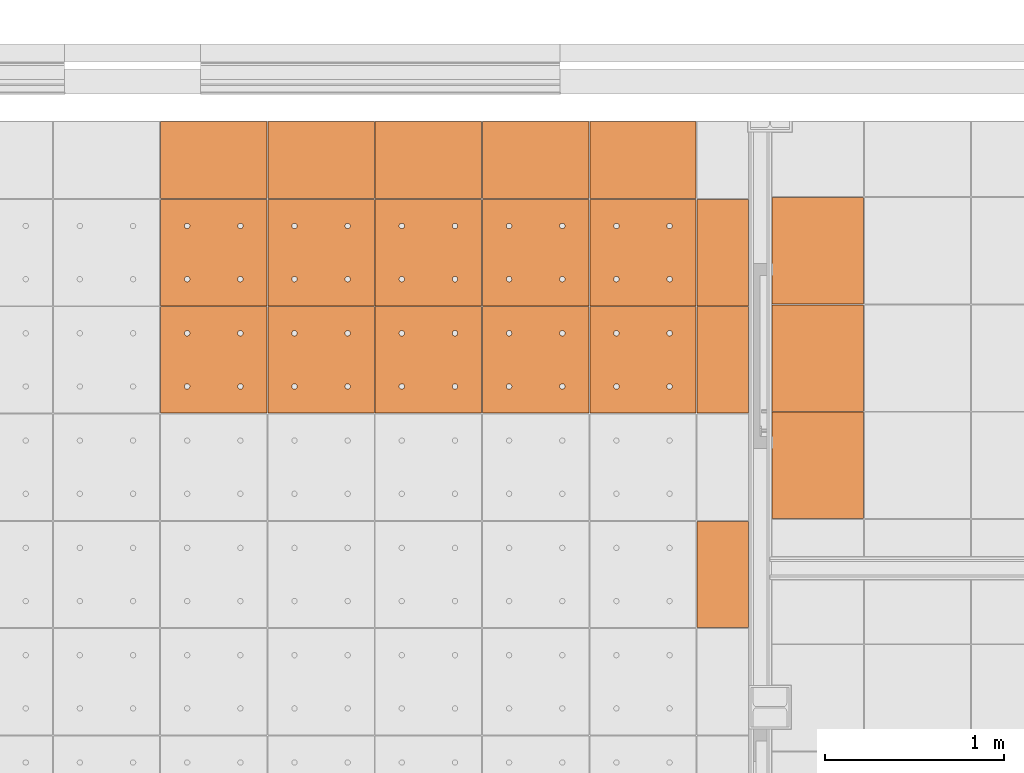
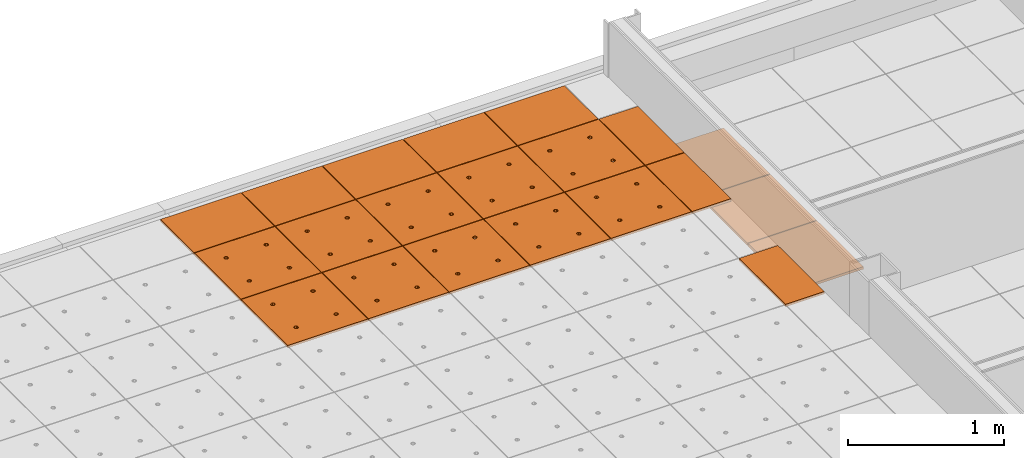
# One storey, part 298 of 338: 21 proxies, 2 elements without a shape of their own.
"""IFC2X3 building model written with IfcOpenShell, lengths in millimetres."""

from ifc_helpers import new_model, entity, si_unit, converted_unit, derived_unit, money_unit, direction, frame, origin_with_axes, place, context, subcontext, project, spatial, faceted_brep, source, transform, mapped, material, type_object, type_shapes, element, aggregate, save


model = new_model("IFC2X3")

# Units and contexts
model_context = context("Model", 3, precision=0.01, world=origin_with_axes(), true_north=direction((0.0, 1.0)))
plan_context = context("Plan", 3, precision=0.01, world=origin_with_axes(), true_north=direction((0.0, 1.0)))
body_context = subcontext(model_context, "Body", "Model", "MODEL_VIEW")
ifc_project = project(units=[si_unit("LENGTHUNIT", "METRE", prefix="MILLI"), si_unit("AREAUNIT", "SQUARE_METRE"), si_unit("VOLUMEUNIT", "CUBIC_METRE"), converted_unit("PLANEANGLEUNIT", "DEGREE", entity("IfcPlaneAngleMeasure", 0.0174532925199), si_unit("PLANEANGLEUNIT", "RADIAN"), dimensions=[0, 0, 0, 0, 0, 0, 0]), money_unit("EUR"), converted_unit("TIMEUNIT", "Year", entity("IfcTimeMeasure", 31556926.0), si_unit("TIMEUNIT", "SECOND"), dimensions=[0, 0, 1, 0, 0, 0, 0]), si_unit("MASSUNIT", "GRAM", prefix="KILO"), si_unit("THERMODYNAMICTEMPERATUREUNIT", "DEGREE_CELSIUS"), si_unit("LUMINOUSINTENSITYUNIT", "LUMEN"), si_unit("ENERGYUNIT", "JOULE", prefix="MEGA"), derived_unit("THERMALCONDUCTANCEUNIT", [(si_unit("POWERUNIT", "WATT"), 1), (si_unit("LENGTHUNIT", "METRE"), -1), (si_unit("THERMODYNAMICTEMPERATUREUNIT", "KELVIN"), -1)]), derived_unit("SPECIFICHEATCAPACITYUNIT", [(si_unit("ENERGYUNIT", "JOULE"), 1), (si_unit("MASSUNIT", "GRAM", prefix="KILO"), -1), (si_unit("THERMODYNAMICTEMPERATUREUNIT", "KELVIN"), -1)]), derived_unit("MASSDENSITYUNIT", [(si_unit("MASSUNIT", "GRAM", prefix="KILO"), 1), (si_unit("VOLUMEUNIT", "CUBIC_METRE"), -1)])], contexts=[model_context, plan_context])

# Site, building, storey
site_placement = place(None, origin_with_axes())
site = spatial("IfcSite", under=ifc_project, at=site_placement, Name="Fortuinstraat Woensdrecht", CompositionType="ELEMENT")
building_placement = place(site_placement, origin_with_axes())
building = spatial("IfcBuilding", under=site, at=building_placement, Name="IKC Fortuna", CompositionType="ELEMENT")
storey_placement = place(building_placement, origin_with_axes())
storey = spatial("IfcBuildingStorey", under=building, at=storey_placement, Name="00 begane grond", CompositionType="ELEMENT", Elevation=0.0)

# Covering, proxies
covering_type = type_object("IfcCoveringType", Name="Curtain Wall Type", PredefinedType="CEILING")
covering_1_placement = place(storey_placement, frame((15059.4416165, 34009.703821, 3210.0), z_axis=(0.0, 0.0, 1.0), x_axis=(1.0, 0.0, 0.0)))
covering_1 = element("IfcCovering", 1, at=covering_1_placement, inside=storey, type_object=covering_type, Name="45_Plafondafwerking_P01", PredefinedType="CEILING")
ifc_material = material(Name="Gipsplaat")
building_element_proxy_type_1 = type_object("IfcBuildingElementProxyType", Name="Distinct Panel 600 x 600 x 20", PredefinedType="NOTDEFINED")
shared_shape_1 = source(origin_with_axes(), body_context, "Body", "Brep", [
    faceted_brep([(2.49999999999, 2.49999999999, -10.0), (300.0, 2.49999999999, -10.0), (300.0, 2.49999999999, 10.0), (2.49999999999, 2.49999999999, 10.0), (2.49999999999, 300.0, -10.0), (2.49999999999, 597.5, -10.0), (300.0, 597.5, -10.0), (597.5, 597.5, -10.0), (597.5, 300.0, -10.0), (597.5, 2.49999999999, -10.0), (166.25, 450.06232995, -10.0), (165.79423259, 452.64711538, -10.0), (164.896546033, 455.11348892, -10.0), (163.58421608, 457.38651108, -10.0), (161.897117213, 459.39711721, -10.0), (159.886511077, 461.08421608, -10.0), (157.613488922, 462.39654603, -10.0), (155.147115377, 463.29423259, -10.0), (152.562329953, 463.75, -10.0), (149.937670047, 463.75, -10.0), (147.352884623, 463.29423259, -10.0), (144.886511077, 462.39654603, -10.0), (142.613488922, 461.08421608, -10.0), (140.602882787, 459.39711721, -10.0), (138.91578392, 457.38651108, -10.0), (137.603453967, 455.11348892, -10.0), (136.705767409, 452.64711538, -10.0), (136.25, 450.06232995, -10.0), (136.25, 448.75, -10.0), (136.25, 447.43767005, -10.0), (136.705767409, 444.85288462, -10.0), (137.603453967, 442.38651108, -10.0), (138.91578392, 440.11348892, -10.0), (140.602882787, 438.10288279, -10.0), (142.613488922, 436.41578392, -10.0), (144.886511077, 435.10345397, -10.0), (147.352884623, 434.20576741, -10.0), (149.937670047, 433.75, -10.0), (152.562329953, 433.75, -10.0), (155.147115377, 434.20576741, -10.0), (157.613488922, 435.10345397, -10.0), (159.886511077, 436.41578392, -10.0), (161.897117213, 438.10288279, -10.0), (163.58421608, 440.11348892, -10.0), (164.896546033, 442.38651108, -10.0), (165.79423259, 444.85288462, -10.0), (166.25, 447.43767005, -10.0), (463.75, 450.06232995, -10.0), (463.29423259, 452.64711538, -10.0), (462.396546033, 455.11348892, -10.0), (461.08421608, 457.38651108, -10.0), (459.397117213, 459.39711721, -10.0), (457.386511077, 461.08421608, -10.0), (455.113488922, 462.39654603, -10.0), (452.647115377, 463.29423259, -10.0), (450.062329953, 463.75, -10.0), (447.437670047, 463.75, -10.0), (444.852884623, 463.29423259, -10.0), (442.386511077, 462.39654603, -10.0), (440.113488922, 461.08421608, -10.0), (438.102882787, 459.39711721, -10.0), (436.41578392, 457.38651108, -10.0), (435.103453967, 455.11348892, -10.0), (434.205767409, 452.64711538, -10.0), (433.75, 450.06232995, -10.0), (433.75, 448.75, -10.0), (433.75, 447.43767005, -10.0), (434.205767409, 444.85288462, -10.0), (435.103453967, 442.38651108, -10.0), (436.41578392, 440.11348892, -10.0), (438.102882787, 438.10288279, -10.0), (440.113488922, 436.41578392, -10.0), (442.386511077, 435.10345397, -10.0), (444.852884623, 434.20576741, -10.0), (447.437670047, 433.75, -10.0), (450.062329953, 433.75, -10.0), (452.647115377, 434.20576741, -10.0), (455.113488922, 435.10345397, -10.0), (457.386511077, 436.41578392, -10.0), (459.397117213, 438.10288279, -10.0), (461.08421608, 440.11348892, -10.0), (462.396546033, 442.38651108, -10.0), (463.29423259, 444.85288462, -10.0), (463.75, 447.43767005, -10.0), (463.75, 152.56232995, -10.0), (463.29423259, 155.14711538, -10.0), (462.396546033, 157.61348892, -10.0), (461.08421608, 159.88651108, -10.0), (459.397117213, 161.89711721, -10.0), (457.386511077, 163.58421608, -10.0), (455.113488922, 164.89654603, -10.0), (452.647115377, 165.79423259, -10.0), (450.062329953, 166.25, -10.0), (447.437670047, 166.25, -10.0), (444.852884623, 165.79423259, -10.0), (442.386511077, 164.89654603, -10.0), (440.113488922, 163.58421608, -10.0), (438.102882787, 161.89711721, -10.0), (436.41578392, 159.88651108, -10.0), (435.103453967, 157.61348892, -10.0), (434.205767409, 155.14711538, -10.0), (433.75, 152.56232995, -10.0), (433.75, 151.25, -10.0), (433.75, 149.93767005, -10.0), (434.205767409, 147.35288462, -10.0), (435.103453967, 144.88651108, -10.0), (436.41578392, 142.61348892, -10.0), (438.102882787, 140.60288279, -10.0), (440.113488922, 138.91578392, -10.0), (442.386511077, 137.60345397, -10.0), (444.852884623, 136.70576741, -10.0), (447.437670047, 136.25, -10.0), (450.062329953, 136.25, -10.0), (452.647115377, 136.70576741, -10.0), (455.113488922, 137.60345397, -10.0), (457.386511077, 138.91578392, -10.0), (459.397117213, 140.60288279, -10.0), (461.08421608, 142.61348892, -10.0), (462.396546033, 144.88651108, -10.0), (463.29423259, 147.35288462, -10.0), (463.75, 149.93767005, -10.0), (166.25, 152.56232995, -10.0), (165.79423259, 155.14711538, -10.0), (164.896546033, 157.61348892, -10.0), (163.58421608, 159.88651108, -10.0), (161.897117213, 161.89711721, -10.0), (159.886511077, 163.58421608, -10.0), (157.613488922, 164.89654603, -10.0), (155.147115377, 165.79423259, -10.0), (152.562329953, 166.25, -10.0), (149.937670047, 166.25, -10.0), (147.352884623, 165.79423259, -10.0), (144.886511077, 164.89654603, -10.0), (142.613488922, 163.58421608, -10.0), (140.602882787, 161.89711721, -10.0), (138.91578392, 159.88651108, -10.0), (137.603453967, 157.61348892, -10.0), (136.705767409, 155.14711538, -10.0), (136.25, 152.56232995, -10.0), (136.25, 151.25, -10.0), (136.25, 149.93767005, -10.0), (136.705767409, 147.35288462, -10.0), (137.603453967, 144.88651108, -10.0), (138.91578392, 142.61348892, -10.0), (140.602882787, 140.60288279, -10.0), (142.613488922, 138.91578392, -10.0), (144.886511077, 137.60345397, -10.0), (147.352884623, 136.70576741, -10.0), (149.937670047, 136.25, -10.0), (152.562329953, 136.25, -10.0), (155.147115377, 136.70576741, -10.0), (157.613488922, 137.60345397, -10.0), (159.886511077, 138.91578392, -10.0), (161.897117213, 140.60288279, -10.0), (163.58421608, 142.61348892, -10.0), (164.896546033, 144.88651108, -10.0), (165.79423259, 147.35288462, -10.0), (166.25, 149.93767005, -10.0), (597.5, 2.49999999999, 10.0), (597.5, 300.0, 10.0), (597.5, 597.5, 10.0), (300.0, 597.5, 10.0), (2.49999999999, 597.5, 10.0), (2.49999999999, 300.0, 10.0), (166.25, 450.06232995, 10.0), (166.25, 447.43767005, 10.0), (165.79423259, 444.85288462, 10.0), (164.896546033, 442.38651108, 10.0), (163.58421608, 440.11348892, 10.0), (161.897117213, 438.10288279, 10.0), (159.886511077, 436.41578392, 10.0), (157.613488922, 435.10345397, 10.0), (155.147115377, 434.20576741, 10.0), (152.562329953, 433.75, 10.0), (149.937670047, 433.75, 10.0), (147.352884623, 434.20576741, 10.0), (144.886511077, 435.10345397, 10.0), (142.613488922, 436.41578392, 10.0), (140.602882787, 438.10288279, 10.0), (138.91578392, 440.11348892, 10.0), (137.603453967, 442.38651108, 10.0), (136.705767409, 444.85288462, 10.0), (136.25, 447.43767005, 10.0), (136.25, 448.75, 10.0), (136.25, 450.06232995, 10.0), (136.705767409, 452.64711538, 10.0), (137.603453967, 455.11348892, 10.0), (138.91578392, 457.38651108, 10.0), (140.602882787, 459.39711721, 10.0), (142.613488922, 461.08421608, 10.0), (144.886511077, 462.39654603, 10.0), (147.352884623, 463.29423259, 10.0), (149.937670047, 463.75, 10.0), (152.562329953, 463.75, 10.0), (155.147115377, 463.29423259, 10.0), (157.613488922, 462.39654603, 10.0), (159.886511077, 461.08421608, 10.0), (161.897117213, 459.39711721, 10.0), (163.58421608, 457.38651108, 10.0), (164.896546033, 455.11348892, 10.0), (165.79423259, 452.64711538, 10.0), (463.75, 450.06232995, 10.0), (463.75, 447.43767005, 10.0), (463.29423259, 444.85288462, 10.0), (462.396546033, 442.38651108, 10.0), (461.08421608, 440.11348892, 10.0), (459.397117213, 438.10288279, 10.0), (457.386511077, 436.41578392, 10.0), (455.113488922, 435.10345397, 10.0), (452.647115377, 434.20576741, 10.0), (450.062329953, 433.75, 10.0), (447.437670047, 433.75, 10.0), (444.852884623, 434.20576741, 10.0), (442.386511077, 435.10345397, 10.0), (440.113488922, 436.41578392, 10.0), (438.102882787, 438.10288279, 10.0), (436.41578392, 440.11348892, 10.0), (435.103453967, 442.38651108, 10.0), (434.205767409, 444.85288462, 10.0), (433.75, 447.43767005, 10.0), (433.75, 448.75, 10.0), (433.75, 450.06232995, 10.0), (434.205767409, 452.64711538, 10.0), (435.103453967, 455.11348892, 10.0), (436.41578392, 457.38651108, 10.0), (438.102882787, 459.39711721, 10.0), (440.113488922, 461.08421608, 10.0), (442.386511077, 462.39654603, 10.0), (444.852884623, 463.29423259, 10.0), (447.437670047, 463.75, 10.0), (450.062329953, 463.75, 10.0), (452.647115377, 463.29423259, 10.0), (455.113488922, 462.39654603, 10.0), (457.386511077, 461.08421608, 10.0), (459.397117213, 459.39711721, 10.0), (461.08421608, 457.38651108, 10.0), (462.396546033, 455.11348892, 10.0), (463.29423259, 452.64711538, 10.0), (463.75, 152.56232995, 10.0), (463.75, 149.93767005, 10.0), (463.29423259, 147.35288462, 10.0), (462.396546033, 144.88651108, 10.0), (461.08421608, 142.61348892, 10.0), (459.397117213, 140.60288279, 10.0), (457.386511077, 138.91578392, 10.0), (455.113488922, 137.60345397, 10.0), (452.647115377, 136.70576741, 10.0), (450.062329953, 136.25, 10.0), (447.437670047, 136.25, 10.0), (444.852884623, 136.70576741, 10.0), (442.386511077, 137.60345397, 10.0), (440.113488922, 138.91578392, 10.0), (438.102882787, 140.60288279, 10.0), (436.41578392, 142.61348892, 10.0), (435.103453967, 144.88651108, 10.0), (434.205767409, 147.35288462, 10.0), (433.75, 149.93767005, 10.0), (433.75, 151.25, 10.0), (433.75, 152.56232995, 10.0), (434.205767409, 155.14711538, 10.0), (435.103453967, 157.61348892, 10.0), (436.41578392, 159.88651108, 10.0), (438.102882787, 161.89711721, 10.0), (440.113488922, 163.58421608, 10.0), (442.386511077, 164.89654603, 10.0), (444.852884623, 165.79423259, 10.0), (447.437670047, 166.25, 10.0), (450.062329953, 166.25, 10.0), (452.647115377, 165.79423259, 10.0), (455.113488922, 164.89654603, 10.0), (457.386511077, 163.58421608, 10.0), (459.397117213, 161.89711721, 10.0), (461.08421608, 159.88651108, 10.0), (462.396546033, 157.61348892, 10.0), (463.29423259, 155.14711538, 10.0), (166.25, 152.56232995, 10.0), (166.25, 149.93767005, 10.0), (165.79423259, 147.35288462, 10.0), (164.896546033, 144.88651108, 10.0), (163.58421608, 142.61348892, 10.0), (161.897117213, 140.60288279, 10.0), (159.886511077, 138.91578392, 10.0), (157.613488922, 137.60345397, 10.0), (155.147115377, 136.70576741, 10.0), (152.562329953, 136.25, 10.0), (149.937670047, 136.25, 10.0), (147.352884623, 136.70576741, 10.0), (144.886511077, 137.60345397, 10.0), (142.613488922, 138.91578392, 10.0), (140.602882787, 140.60288279, 10.0), (138.91578392, 142.61348892, 10.0), (137.603453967, 144.88651108, 10.0), (136.705767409, 147.35288462, 10.0), (136.25, 149.93767005, 10.0), (136.25, 151.25, 10.0), (136.25, 152.56232995, 10.0), (136.705767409, 155.14711538, 10.0), (137.603453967, 157.61348892, 10.0), (138.91578392, 159.88651108, 10.0), (140.602882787, 161.89711721, 10.0), (142.613488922, 163.58421608, 10.0), (144.886511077, 164.89654603, 10.0), (147.352884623, 165.79423259, 10.0), (149.937670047, 166.25, 10.0), (152.562329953, 166.25, 10.0), (155.147115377, 165.79423259, 10.0), (157.613488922, 164.89654603, 10.0), (159.886511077, 163.58421608, 10.0), (161.897117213, 161.89711721, 10.0), (163.58421608, 159.88651108, 10.0), (164.896546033, 157.61348892, 10.0), (165.79423259, 155.14711538, 10.0)], [[[0, 1, 2, 3]], [[0, 4, 5, 6, 7, 8, 9, 1], [10, 11, 12, 13, 14, 15, 16, 17, 18, 19, 20, 21, 22, 23, 24, 25, 26, 27, 28, 29, 30, 31, 32, 33, 34, 35, 36, 37, 38, 39, 40, 41, 42, 43, 44, 45, 46], [47, 48, 49, 50, 51, 52, 53, 54, 55, 56, 57, 58, 59, 60, 61, 62, 63, 64, 65, 66, 67, 68, 69, 70, 71, 72, 73, 74, 75, 76, 77, 78, 79, 80, 81, 82, 83], [84, 85, 86, 87, 88, 89, 90, 91, 92, 93, 94, 95, 96, 97, 98, 99, 100, 101, 102, 103, 104, 105, 106, 107, 108, 109, 110, 111, 112, 113, 114, 115, 116, 117, 118, 119, 120], [121, 122, 123, 124, 125, 126, 127, 128, 129, 130, 131, 132, 133, 134, 135, 136, 137, 138, 139, 140, 141, 142, 143, 144, 145, 146, 147, 148, 149, 150, 151, 152, 153, 154, 155, 156, 157]], [[1, 9, 158, 2]], [[3, 2, 158, 159, 160, 161, 162, 163], [164, 165, 166, 167, 168, 169, 170, 171, 172, 173, 174, 175, 176, 177, 178, 179, 180, 181, 182, 183, 184, 185, 186, 187, 188, 189, 190, 191, 192, 193, 194, 195, 196, 197, 198, 199, 200], [201, 202, 203, 204, 205, 206, 207, 208, 209, 210, 211, 212, 213, 214, 215, 216, 217, 218, 219, 220, 221, 222, 223, 224, 225, 226, 227, 228, 229, 230, 231, 232, 233, 234, 235, 236, 237], [238, 239, 240, 241, 242, 243, 244, 245, 246, 247, 248, 249, 250, 251, 252, 253, 254, 255, 256, 257, 258, 259, 260, 261, 262, 263, 264, 265, 266, 267, 268, 269, 270, 271, 272, 273, 274], [275, 276, 277, 278, 279, 280, 281, 282, 283, 284, 285, 286, 287, 288, 289, 290, 291, 292, 293, 294, 295, 296, 297, 298, 299, 300, 301, 302, 303, 304, 305, 306, 307, 308, 309, 310, 311]], [[4, 0, 3, 163]], [[5, 4, 163, 162]], [[6, 5, 162, 161]], [[7, 6, 161, 160]], [[8, 7, 160, 159]], [[9, 8, 159, 158]], [[11, 10, 164, 200]], [[12, 11, 200, 199]], [[13, 12, 199, 198]], [[14, 13, 198, 197]], [[15, 14, 197, 196]], [[16, 15, 196, 195]], [[17, 16, 195, 194]], [[18, 17, 194, 193]], [[19, 18, 193, 192]], [[20, 19, 192, 191]], [[21, 20, 191, 190]], [[22, 21, 190, 189]], [[23, 22, 189, 188]], [[24, 23, 188, 187]], [[25, 24, 187, 186]], [[26, 25, 186, 185]], [[27, 26, 185, 184]], [[28, 27, 184, 183]], [[29, 28, 183, 182]], [[30, 29, 182, 181]], [[31, 30, 181, 180]], [[32, 31, 180, 179]], [[33, 32, 179, 178]], [[34, 33, 178, 177]], [[35, 34, 177, 176]], [[36, 35, 176, 175]], [[37, 36, 175, 174]], [[38, 37, 174, 173]], [[39, 38, 173, 172]], [[40, 39, 172, 171]], [[41, 40, 171, 170]], [[42, 41, 170, 169]], [[43, 42, 169, 168]], [[44, 43, 168, 167]], [[45, 44, 167, 166]], [[46, 45, 166, 165]], [[10, 46, 165, 164]], [[48, 47, 201, 237]], [[49, 48, 237, 236]], [[50, 49, 236, 235]], [[51, 50, 235, 234]], [[52, 51, 234, 233]], [[53, 52, 233, 232]], [[54, 53, 232, 231]], [[55, 54, 231, 230]], [[56, 55, 230, 229]], [[57, 56, 229, 228]], [[58, 57, 228, 227]], [[59, 58, 227, 226]], [[60, 59, 226, 225]], [[61, 60, 225, 224]], [[62, 61, 224, 223]], [[63, 62, 223, 222]], [[64, 63, 222, 221]], [[65, 64, 221, 220]], [[66, 65, 220, 219]], [[67, 66, 219, 218]], [[68, 67, 218, 217]], [[69, 68, 217, 216]], [[70, 69, 216, 215]], [[71, 70, 215, 214]], [[72, 71, 214, 213]], [[73, 72, 213, 212]], [[74, 73, 212, 211]], [[75, 74, 211, 210]], [[76, 75, 210, 209]], [[77, 76, 209, 208]], [[78, 77, 208, 207]], [[79, 78, 207, 206]], [[80, 79, 206, 205]], [[81, 80, 205, 204]], [[82, 81, 204, 203]], [[83, 82, 203, 202]], [[47, 83, 202, 201]], [[85, 84, 238, 274]], [[86, 85, 274, 273]], [[87, 86, 273, 272]], [[88, 87, 272, 271]], [[89, 88, 271, 270]], [[90, 89, 270, 269]], [[91, 90, 269, 268]], [[92, 91, 268, 267]], [[93, 92, 267, 266]], [[94, 93, 266, 265]], [[95, 94, 265, 264]], [[96, 95, 264, 263]], [[97, 96, 263, 262]], [[98, 97, 262, 261]], [[99, 98, 261, 260]], [[100, 99, 260, 259]], [[101, 100, 259, 258]], [[102, 101, 258, 257]], [[103, 102, 257, 256]], [[104, 103, 256, 255]], [[105, 104, 255, 254]], [[106, 105, 254, 253]], [[107, 106, 253, 252]], [[108, 107, 252, 251]], [[109, 108, 251, 250]], [[110, 109, 250, 249]], [[111, 110, 249, 248]], [[112, 111, 248, 247]], [[113, 112, 247, 246]], [[114, 113, 246, 245]], [[115, 114, 245, 244]], [[116, 115, 244, 243]], [[117, 116, 243, 242]], [[118, 117, 242, 241]], [[119, 118, 241, 240]], [[120, 119, 240, 239]], [[84, 120, 239, 238]], [[122, 121, 275, 311]], [[123, 122, 311, 310]], [[124, 123, 310, 309]], [[125, 124, 309, 308]], [[126, 125, 308, 307]], [[127, 126, 307, 306]], [[128, 127, 306, 305]], [[129, 128, 305, 304]], [[130, 129, 304, 303]], [[131, 130, 303, 302]], [[132, 131, 302, 301]], [[133, 132, 301, 300]], [[134, 133, 300, 299]], [[135, 134, 299, 298]], [[136, 135, 298, 297]], [[137, 136, 297, 296]], [[138, 137, 296, 295]], [[139, 138, 295, 294]], [[140, 139, 294, 293]], [[141, 140, 293, 292]], [[142, 141, 292, 291]], [[143, 142, 291, 290]], [[144, 143, 290, 289]], [[145, 144, 289, 288]], [[146, 145, 288, 287]], [[147, 146, 287, 286]], [[148, 147, 286, 285]], [[149, 148, 285, 284]], [[150, 149, 284, 283]], [[151, 150, 283, 282]], [[152, 151, 282, 281]], [[153, 152, 281, 280]], [[154, 153, 280, 279]], [[155, 154, 279, 278]], [[156, 155, 278, 277]], [[157, 156, 277, 276]], [[121, 157, 276, 275]]]),
])
type_shapes(building_element_proxy_type_1, [shared_shape_1])
proxy_1_placement = place(covering_1_placement, frame((4800.0, 600.0, 0.0), z_axis=(0.0, 0.0, 1.0), x_axis=(1.0, 0.0, 0.0)))
proxy_1 = element("IfcBuildingElementProxy", 2, at=proxy_1_placement, type_object=building_element_proxy_type_1, material=ifc_material, Name="__Panel-D", context=body_context, shape_type="MappedRepresentation", body=[
    mapped(shared_shape_1, transform((300.0, 300.0, 0.0), x_axis=(-1.0, 0.0, 0.0), y_axis=(0.0, -1.0, 0.0), z_axis=(0.0, 0.0, 1.0))),
])
proxy_2_placement = place(covering_1_placement, frame((4800.0, 1.35003119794e-10, 0.0), z_axis=(0.0, 0.0, 1.0), x_axis=(1.0, 0.0, 0.0)))
proxy_2 = element("IfcBuildingElementProxy", 3, at=proxy_2_placement, type_object=building_element_proxy_type_1, material=ifc_material, Name="__Panel-D", context=body_context, shape_type="MappedRepresentation", body=[
    mapped(shared_shape_1, transform((300.0, 300.0, 0.0), x_axis=(-1.0, 0.0, 0.0), y_axis=(0.0, -1.0, 0.0), z_axis=(0.0, 0.0, 1.0))),
])
proxy_3_placement = place(covering_1_placement, frame((4200.0, 600.0, 0.0), z_axis=(0.0, 0.0, 1.0), x_axis=(1.0, 0.0, 0.0)))
proxy_3 = element("IfcBuildingElementProxy", 4, at=proxy_3_placement, type_object=building_element_proxy_type_1, material=ifc_material, Name="__Panel-D", context=body_context, shape_type="MappedRepresentation", body=[
    mapped(shared_shape_1, transform((300.0, 300.0, 0.0), x_axis=(-1.0, 0.0, 0.0), y_axis=(0.0, -1.0, 0.0), z_axis=(0.0, 0.0, 1.0))),
])
proxy_4_placement = place(covering_1_placement, frame((4200.0, 1.13686837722e-10, 0.0), z_axis=(0.0, 0.0, 1.0), x_axis=(1.0, 0.0, 0.0)))
proxy_4 = element("IfcBuildingElementProxy", 5, at=proxy_4_placement, type_object=building_element_proxy_type_1, material=ifc_material, Name="__Panel-D", context=body_context, shape_type="MappedRepresentation", body=[
    mapped(shared_shape_1, transform((300.0, 300.0, 0.0), x_axis=(-1.0, 0.0, 0.0), y_axis=(0.0, -1.0, 0.0), z_axis=(0.0, 0.0, 1.0))),
])
proxy_5_placement = place(covering_1_placement, frame((3600.0, 600.0, 0.0), z_axis=(0.0, 0.0, 1.0), x_axis=(1.0, 0.0, 0.0)))
proxy_5 = element("IfcBuildingElementProxy", 6, at=proxy_5_placement, type_object=building_element_proxy_type_1, material=ifc_material, Name="__Panel-D", context=body_context, shape_type="MappedRepresentation", body=[
    mapped(shared_shape_1, transform((300.0, 300.0, 0.0), x_axis=(-1.0, 0.0, 0.0), y_axis=(0.0, -1.0, 0.0), z_axis=(0.0, 0.0, 1.0))),
])
proxy_6_placement = place(covering_1_placement, frame((3600.0, 0.0, 0.0), z_axis=(0.0, 0.0, 1.0), x_axis=(1.0, 0.0, 0.0)))
proxy_6 = element("IfcBuildingElementProxy", 7, at=proxy_6_placement, type_object=building_element_proxy_type_1, material=ifc_material, Name="__Panel-D", context=body_context, shape_type="MappedRepresentation", body=[
    mapped(shared_shape_1, transform((300.0, 300.0, 0.0), x_axis=(-1.0, 0.0, 0.0), y_axis=(0.0, -1.0, 0.0), z_axis=(0.0, 0.0, 1.0))),
])
proxy_7_placement = place(covering_1_placement, frame((3000.0, 600.0, 0.0), z_axis=(0.0, 0.0, 1.0), x_axis=(1.0, 0.0, 0.0)))
proxy_7 = element("IfcBuildingElementProxy", 8, at=proxy_7_placement, type_object=building_element_proxy_type_1, material=ifc_material, Name="__Panel-D", context=body_context, shape_type="MappedRepresentation", body=[
    mapped(shared_shape_1, transform((300.0, 300.0, 0.0), x_axis=(-1.0, 0.0, 0.0), y_axis=(0.0, -1.0, 0.0), z_axis=(0.0, 0.0, 1.0))),
])
proxy_8_placement = place(covering_1_placement, frame((3000.0, 0.0, 0.0), z_axis=(0.0, 0.0, 1.0), x_axis=(1.0, 0.0, 0.0)))
proxy_8 = element("IfcBuildingElementProxy", 9, at=proxy_8_placement, type_object=building_element_proxy_type_1, material=ifc_material, Name="__Panel-D", context=body_context, shape_type="MappedRepresentation", body=[
    mapped(shared_shape_1, transform((300.0, 300.0, 0.0), x_axis=(-1.0, 0.0, 0.0), y_axis=(0.0, -1.0, 0.0), z_axis=(0.0, 0.0, 1.0))),
])
proxy_9_placement = place(covering_1_placement, frame((2400.0, 600.0, 0.0), z_axis=(0.0, 0.0, 1.0), x_axis=(1.0, 0.0, 0.0)))
proxy_9 = element("IfcBuildingElementProxy", 10, at=proxy_9_placement, type_object=building_element_proxy_type_1, material=ifc_material, Name="__Panel-D", context=body_context, shape_type="MappedRepresentation", body=[
    mapped(shared_shape_1, transform((300.0, 300.0, 0.0), x_axis=(-1.0, 0.0, 0.0), y_axis=(0.0, -1.0, 0.0), z_axis=(0.0, 0.0, 1.0))),
])
proxy_10_placement = place(covering_1_placement, frame((2400.0, 0.0, 0.0), z_axis=(0.0, 0.0, 1.0), x_axis=(1.0, 0.0, 0.0)))
proxy_10 = element("IfcBuildingElementProxy", 11, at=proxy_10_placement, type_object=building_element_proxy_type_1, material=ifc_material, Name="__Panel-D", context=body_context, shape_type="MappedRepresentation", body=[
    mapped(shared_shape_1, transform((300.0, 300.0, 0.0), x_axis=(-1.0, 0.0, 0.0), y_axis=(0.0, -1.0, 0.0), z_axis=(0.0, 0.0, 1.0))),
])
building_element_proxy_type_2 = type_object("IfcBuildingElementProxyType", Name="Main Panel 292 x 600 x 20", PredefinedType="NOTDEFINED")
shared_shape_2 = source(origin_with_axes(), body_context, "Body", "Brep", [
    faceted_brep([(310.0065893, 2.5, -10.0), (597.5, 2.49999999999, -10.0), (597.5, 2.49999999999, 10.0), (310.0065893, 2.5, 10.0), (310.0065893, 597.5, -10.0), (597.5, 597.5, -10.0), (597.5, 597.5, 10.0), (310.0065893, 597.5, 10.0)], [[[0, 1, 2, 3]], [[0, 4, 5, 1]], [[1, 5, 6, 2]], [[3, 2, 6, 7]], [[4, 0, 3, 7]], [[5, 4, 7, 6]]]),
])
proxy_11_placement = place(covering_1_placement, frame((5246.24663972, 1.42108547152e-10, 0.0), z_axis=(0.0, 0.0, 1.0), x_axis=(1.0, 0.0, 0.0)))
proxy_11 = element("IfcBuildingElementProxy", 12, at=proxy_11_placement, type_object=building_element_proxy_type_2, material=ifc_material, Name="__Panel-D", context=body_context, shape_type="MappedRepresentation", body=[
    mapped(shared_shape_2, transform((453.753360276, 300.0, 0.0), x_axis=(-1.0, 0.0, 0.0), y_axis=(0.0, -1.0, 0.0), z_axis=(0.0, 0.0, 1.0))),
])
proxy_12_placement = place(covering_1_placement, frame((5246.24664365, 600.0, 0.0), z_axis=(0.0, 0.0, 1.0), x_axis=(1.0, 0.0, 0.0)))
proxy_12 = element("IfcBuildingElementProxy", 13, at=proxy_12_placement, type_object=building_element_proxy_type_2, material=ifc_material, Name="__Panel-D", context=body_context, shape_type="MappedRepresentation", body=[
    mapped(shared_shape_2, transform((453.75335635, 300.0, 0.0), x_axis=(-1.0, 0.0, 0.0), y_axis=(0.0, -1.0, 0.0), z_axis=(0.0, 0.0, 1.0))),
])
building_element_proxy_type_3 = type_object("IfcBuildingElementProxyType", Name="Main Panel 600 x 437 x 20", PredefinedType="NOTDEFINED")
shared_shape_3 = source(origin_with_axes(), body_context, "Body", "Brep", [
    faceted_brep([(2.5, 165.907222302, -10.0), (597.5, 165.907222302, -10.0), (597.5, 165.907222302, 10.0), (2.5, 165.907222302, 10.0), (2.50000000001, 597.5, -10.0), (597.5, 597.5, -10.0), (597.5, 597.5, 10.0), (2.50000000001, 597.5, 10.0)], [[[0, 1, 2, 3]], [[0, 4, 5, 1]], [[1, 5, 6, 2]], [[3, 2, 6, 7]], [[4, 0, 3, 7]], [[5, 4, 7, 6]]]),
])
type_shapes(building_element_proxy_type_3, [shared_shape_3])
proxy_13_placement = place(covering_1_placement, frame((3600.0, 1118.29638989, 0.0), z_axis=(0.0, 0.0, 1.0), x_axis=(1.0, 0.0, 0.0)))
proxy_13 = element("IfcBuildingElementProxy", 14, at=proxy_13_placement, type_object=building_element_proxy_type_3, material=ifc_material, Name="__Panel-D", context=body_context, shape_type="MappedRepresentation", body=[
    mapped(shared_shape_3, transform((300.0, 381.703610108, 0.0), x_axis=(-1.0, 0.0, 0.0), y_axis=(0.0, -1.0, 0.0), z_axis=(0.0, 0.0, 1.0))),
])
proxy_14_placement = place(covering_1_placement, frame((4800.0, 1118.29638989, 0.0), z_axis=(0.0, 0.0, 1.0), x_axis=(1.0, 0.0, 0.0)))
proxy_14 = element("IfcBuildingElementProxy", 15, at=proxy_14_placement, type_object=building_element_proxy_type_3, material=ifc_material, Name="__Panel-D", context=body_context, shape_type="MappedRepresentation", body=[
    mapped(shared_shape_3, transform((300.0, 381.703610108, 0.0), x_axis=(-1.0, 0.0, 0.0), y_axis=(0.0, -1.0, 0.0), z_axis=(0.0, 0.0, 1.0))),
])
proxy_15_placement = place(covering_1_placement, frame((2400.0, 1118.29638989, 0.0), z_axis=(0.0, 0.0, 1.0), x_axis=(1.0, 0.0, 0.0)))
proxy_15 = element("IfcBuildingElementProxy", 16, at=proxy_15_placement, type_object=building_element_proxy_type_3, material=ifc_material, Name="__Panel-D", context=body_context, shape_type="MappedRepresentation", body=[
    mapped(shared_shape_3, transform((300.0, 381.703610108, 0.0), x_axis=(-1.0, 0.0, 0.0), y_axis=(0.0, -1.0, 0.0), z_axis=(0.0, 0.0, 1.0))),
])
proxy_16_placement = place(covering_1_placement, frame((4200.0, 1118.29638989, 0.0), z_axis=(0.0, 0.0, 1.0), x_axis=(1.0, 0.0, 0.0)))
proxy_16 = element("IfcBuildingElementProxy", 17, at=proxy_16_placement, type_object=building_element_proxy_type_3, material=ifc_material, Name="__Panel-D", context=body_context, shape_type="MappedRepresentation", body=[
    mapped(shared_shape_3, transform((300.0, 381.703610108, 0.0), x_axis=(-1.0, 0.0, 0.0), y_axis=(0.0, -1.0, 0.0), z_axis=(0.0, 0.0, 1.0))),
])
proxy_17_placement = place(covering_1_placement, frame((3000.0, 1118.29638989, 0.0), z_axis=(0.0, 0.0, 1.0), x_axis=(1.0, 0.0, 0.0)))
proxy_17 = element("IfcBuildingElementProxy", 18, at=proxy_17_placement, type_object=building_element_proxy_type_3, material=ifc_material, Name="__Panel-D", context=body_context, shape_type="MappedRepresentation", body=[
    mapped(shared_shape_3, transform((300.0, 381.703610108, 0.0), x_axis=(-1.0, 0.0, 0.0), y_axis=(0.0, -1.0, 0.0), z_axis=(0.0, 0.0, 1.0))),
])
shared_shape_4 = source(origin_with_axes(), body_context, "Body", "Brep", [
    faceted_brep([(310.00672341, 2.5, -10.0), (597.5, 2.49999999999, -10.0), (597.5, 2.49999999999, 10.0), (310.00672341, 2.5, 10.0), (310.00672341, 597.5, -10.0), (597.5, 597.5, -10.0), (597.5, 597.5, 10.0), (310.00672341, 597.5, 10.0)], [[[0, 1, 2, 3]], [[0, 4, 5, 1]], [[1, 5, 6, 2]], [[3, 2, 6, 7]], [[4, 0, 3, 7]], [[5, 4, 7, 6]]]),
])
type_shapes(building_element_proxy_type_2, [shared_shape_2, shared_shape_4])
proxy_18_placement = place(covering_1_placement, frame((5246.24663972, -1200.0, 0.0), z_axis=(0.0, 0.0, 1.0), x_axis=(1.0, 0.0, 0.0)))
proxy_18 = element("IfcBuildingElementProxy", 19, at=proxy_18_placement, type_object=building_element_proxy_type_2, material=ifc_material, Name="__Panel-D", context=body_context, shape_type="MappedRepresentation", body=[
    mapped(shared_shape_4, transform((453.753360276, 300.0, 0.0), x_axis=(-1.0, 0.0, 0.0), y_axis=(0.0, -1.0, 0.0), z_axis=(0.0, 0.0, 1.0))),
])
aggregate(covering_1, [proxy_13, proxy_11, proxy_14, proxy_15, proxy_16, proxy_18, proxy_1, proxy_2, proxy_3, proxy_4, proxy_5, proxy_6, proxy_7, proxy_8, proxy_9, proxy_10, proxy_12, proxy_17])

covering_2_placement = place(storey_placement, frame((21994.4445848, 33013.5541843, 2810.0), z_axis=(0.0, 0.0, 1.0), x_axis=(1.0, 0.0, 0.0)))
covering_2 = element("IfcCovering", 20, at=covering_2_placement, inside=storey, type_object=covering_type, Name="45_Plafondafwerking_P02", PredefinedType="CEILING")
building_element_proxy_type_4 = type_object("IfcBuildingElementProxyType", Name="Distinct Panel 518 x 600 x 20", PredefinedType="NOTDEFINED")
shared_shape_5 = source(origin_with_axes(), body_context, "Body", "Brep", [
    faceted_brep([(2.49999714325, 2.5, -10.0), (515.009608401, 2.49999999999, -10.0), (515.009608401, 2.49999999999, 10.0), (2.49999714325, 2.5, 10.0), (2.49999714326, 597.5, -10.0), (515.009608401, 597.5, -10.0), (515.009608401, 597.5, 10.0), (2.49999714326, 597.5, 10.0)], [[[0, 1, 2, 3]], [[0, 4, 5, 1]], [[1, 5, 6, 2]], [[3, 2, 6, 7]], [[4, 0, 3, 7]], [[5, 4, 7, 6]]]),
])
type_shapes(building_element_proxy_type_4, [shared_shape_5])
proxy_19_placement = place(covering_2_placement, frame((-1158.7548042, 1606.24235499, 0.0), z_axis=(0.0, 0.0, 1.0), x_axis=(1.0, 0.0, 0.0)))
proxy_19 = element("IfcBuildingElementProxy", 21, at=proxy_19_placement, type_object=building_element_proxy_type_4, material=ifc_material, Name="__Panel-D", context=body_context, shape_type="MappedRepresentation", body=[
    mapped(shared_shape_5, transform((258.754804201, 300.0, 0.0), x_axis=(-1.0, 0.0, 0.0), y_axis=(0.0, -1.0, 0.0), z_axis=(0.0, 0.0, 1.0))),
])
proxy_20_placement = place(covering_2_placement, frame((-1158.7548042, 1006.24235499, 0.0), z_axis=(0.0, 0.0, 1.0), x_axis=(1.0, 0.0, 0.0)))
proxy_20 = element("IfcBuildingElementProxy", 22, at=proxy_20_placement, type_object=building_element_proxy_type_4, material=ifc_material, Name="__Panel-D", context=body_context, shape_type="MappedRepresentation", body=[
    mapped(shared_shape_5, transform((258.754804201, 300.0, 0.0), x_axis=(-1.0, 0.0, 0.0), y_axis=(0.0, -1.0, 0.0), z_axis=(0.0, 0.0, 1.0))),
])
proxy_21_placement = place(covering_2_placement, frame((-1158.7548042, 406.242354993, 0.0), z_axis=(0.0, 0.0, 1.0), x_axis=(1.0, 0.0, 0.0)))
proxy_21 = element("IfcBuildingElementProxy", 23, at=proxy_21_placement, type_object=building_element_proxy_type_4, material=ifc_material, Name="__Panel-D", context=body_context, shape_type="MappedRepresentation", body=[
    mapped(shared_shape_5, transform((258.754804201, 300.0, 0.0), x_axis=(-1.0, 0.0, 0.0), y_axis=(0.0, -1.0, 0.0), z_axis=(0.0, 0.0, 1.0))),
])
aggregate(covering_2, [proxy_19, proxy_20, proxy_21])

save(model, "model.ifc")
